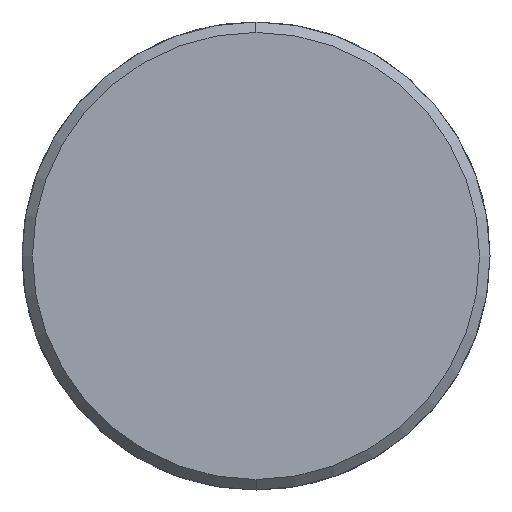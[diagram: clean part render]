
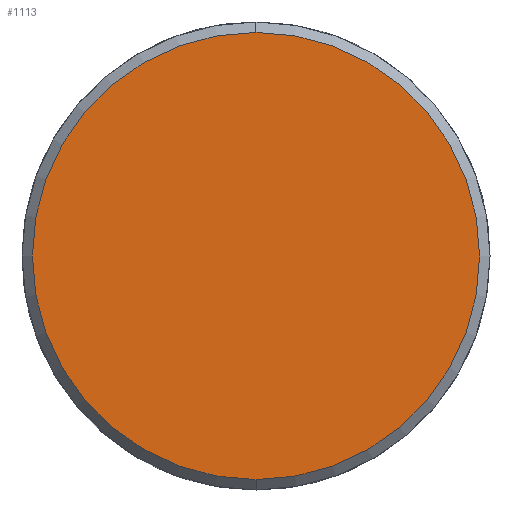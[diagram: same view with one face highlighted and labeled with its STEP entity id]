
A CAD part, left-side view. The second image highlights one B-rep face of the part: STEP entity #1113.
In plain terms, the highlighted planar face has unit normal (-1, 0, 0).
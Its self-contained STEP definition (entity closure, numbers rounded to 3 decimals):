
#1045=CARTESIAN_POINT('Vertex',(-7.,0.,-21.5)) ;
#1048=CARTESIAN_POINT('Axis2P3D Location',(-7.,0.,0.)) ;
#1052=CARTESIAN_POINT('Vertex',(-7.,21.5,0.)) ;
#1055=CARTESIAN_POINT('Axis2P3D Location',(-7.,0.,0.)) ;
#1059=CARTESIAN_POINT('Vertex',(-7.,0.,21.5)) ;
#1081=CARTESIAN_POINT('Axis2P3D Location',(-7.,0.,0.)) ;
#1085=CARTESIAN_POINT('Vertex',(-7.,-21.5,0.)) ;
#1088=CARTESIAN_POINT('Axis2P3D Location',(-7.,0.,0.)) ;
#1102=CARTESIAN_POINT('Axis2P3D Location',(-7.,0.,0.)) ;
#1049=DIRECTION('Axis2P3D Direction',(1.,0.,-0.)) ;
#1056=DIRECTION('Axis2P3D Direction',(1.,0.,-0.)) ;
#1082=DIRECTION('Axis2P3D Direction',(1.,0.,-0.)) ;
#1089=DIRECTION('Axis2P3D Direction',(1.,0.,-0.)) ;
#1103=DIRECTION('Axis2P3D Direction',(1.,0.,-0.)) ;
#1104=DIRECTION('Axis2P3D XDirection',(-0.,0.,-1.)) ;
#1050=AXIS2_PLACEMENT_3D('Circle Axis2P3D',#1048,#1049,$) ;
#1057=AXIS2_PLACEMENT_3D('Circle Axis2P3D',#1055,#1056,$) ;
#1083=AXIS2_PLACEMENT_3D('Circle Axis2P3D',#1081,#1082,$) ;
#1090=AXIS2_PLACEMENT_3D('Circle Axis2P3D',#1088,#1089,$) ;
#1105=AXIS2_PLACEMENT_3D('Plane Axis2P3D',#1102,#1103,#1104) ;
#1108=ORIENTED_EDGE('',*,*,#1054,.F.) ;
#1109=ORIENTED_EDGE('',*,*,#1092,.F.) ;
#1110=ORIENTED_EDGE('',*,*,#1087,.F.) ;
#1111=ORIENTED_EDGE('',*,*,#1061,.F.) ;
#1113=ADVANCED_FACE('351-32X46X100',(#1112),#1106,.F.) ;
#1051=CIRCLE('generated circle',#1050,21.5) ;
#1058=CIRCLE('generated circle',#1057,21.5) ;
#1084=CIRCLE('generated circle',#1083,21.5) ;
#1091=CIRCLE('generated circle',#1090,21.5) ;
#1054=EDGE_CURVE('',#1046,#1053,#1051,.T.) ;
#1061=EDGE_CURVE('',#1053,#1060,#1058,.T.) ;
#1087=EDGE_CURVE('',#1060,#1086,#1084,.T.) ;
#1092=EDGE_CURVE('',#1086,#1046,#1091,.T.) ;
#1107=EDGE_LOOP('',(#1108,#1109,#1110,#1111)) ;
#1112=FACE_OUTER_BOUND('',#1107,.T.) ;
#1106=PLANE('Plane',#1105) ;
#1046=VERTEX_POINT('',#1045) ;
#1053=VERTEX_POINT('',#1052) ;
#1060=VERTEX_POINT('',#1059) ;
#1086=VERTEX_POINT('',#1085) ;
